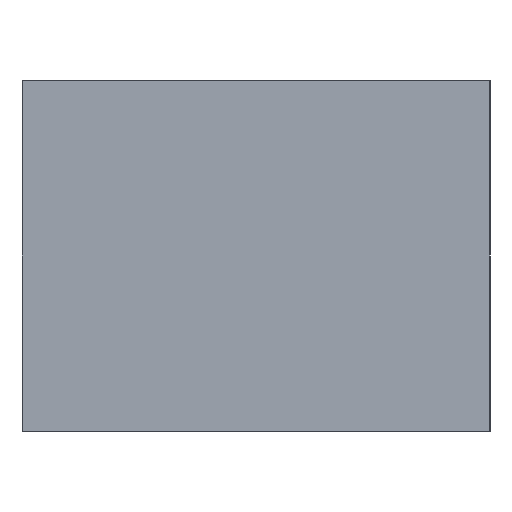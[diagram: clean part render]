
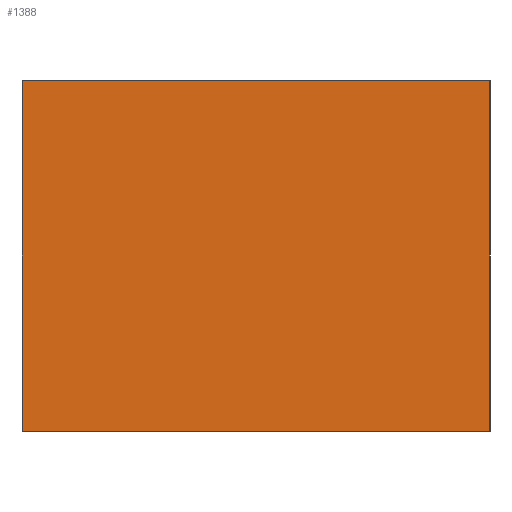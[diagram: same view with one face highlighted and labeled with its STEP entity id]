
A CAD part, left-side view. The second image highlights one B-rep face of the part: STEP entity #1388.
In plain terms, the highlighted planar face has unit normal (1, 0, 0).
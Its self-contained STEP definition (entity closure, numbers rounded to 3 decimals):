
#1349=CARTESIAN_POINT('Axis2P3D Location',(-150.,0.,0.)) ;
#1354=CARTESIAN_POINT('Line Origine',(-150.,0.,-15.)) ;
#1358=CARTESIAN_POINT('Vertex',(-150.,-10.,-15.)) ;
#1360=CARTESIAN_POINT('Vertex',(-150.,10.,-15.)) ;
#1363=CARTESIAN_POINT('Line Origine',(-150.,10.,-7.5)) ;
#1367=CARTESIAN_POINT('Vertex',(-150.,10.,0.)) ;
#1370=CARTESIAN_POINT('Line Origine',(-150.,0.,0.)) ;
#1374=CARTESIAN_POINT('Vertex',(-150.,-10.,0.)) ;
#1377=CARTESIAN_POINT('Line Origine',(-150.,-10.,-7.5)) ;
#1350=DIRECTION('Axis2P3D Direction',(1.,0.,0.)) ;
#1351=DIRECTION('Axis2P3D XDirection',(0.,1.,0.)) ;
#1355=DIRECTION('Vector Direction',(0.,1.,0.)) ;
#1364=DIRECTION('Vector Direction',(0.,0.,1.)) ;
#1371=DIRECTION('Vector Direction',(0.,-1.,0.)) ;
#1378=DIRECTION('Vector Direction',(0.,0.,-1.)) ;
#1352=AXIS2_PLACEMENT_3D('Plane Axis2P3D',#1349,#1350,#1351) ;
#1383=ORIENTED_EDGE('',*,*,#1362,.T.) ;
#1384=ORIENTED_EDGE('',*,*,#1369,.T.) ;
#1385=ORIENTED_EDGE('',*,*,#1376,.T.) ;
#1386=ORIENTED_EDGE('',*,*,#1381,.T.) ;
#1356=VECTOR('Line Direction',#1355,1.) ;
#1365=VECTOR('Line Direction',#1364,1.) ;
#1372=VECTOR('Line Direction',#1371,1.) ;
#1379=VECTOR('Line Direction',#1378,1.) ;
#1388=ADVANCED_FACE('MANIFOLD_SOLID_BREP #5246',(#1387),#1353,.T.) ;
#1362=EDGE_CURVE('',#1359,#1361,#1357,.T.) ;
#1369=EDGE_CURVE('',#1361,#1368,#1366,.T.) ;
#1376=EDGE_CURVE('',#1368,#1375,#1373,.T.) ;
#1381=EDGE_CURVE('',#1375,#1359,#1380,.T.) ;
#1382=EDGE_LOOP('',(#1383,#1384,#1385,#1386)) ;
#1387=FACE_OUTER_BOUND('',#1382,.T.) ;
#1357=LINE('Line',#1354,#1356) ;
#1366=LINE('Line',#1363,#1365) ;
#1373=LINE('Line',#1370,#1372) ;
#1380=LINE('Line',#1377,#1379) ;
#1353=PLANE('Plane',#1352) ;
#1359=VERTEX_POINT('',#1358) ;
#1361=VERTEX_POINT('',#1360) ;
#1368=VERTEX_POINT('',#1367) ;
#1375=VERTEX_POINT('',#1374) ;
